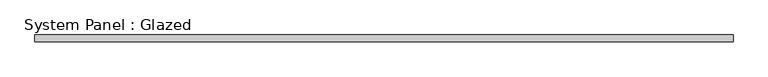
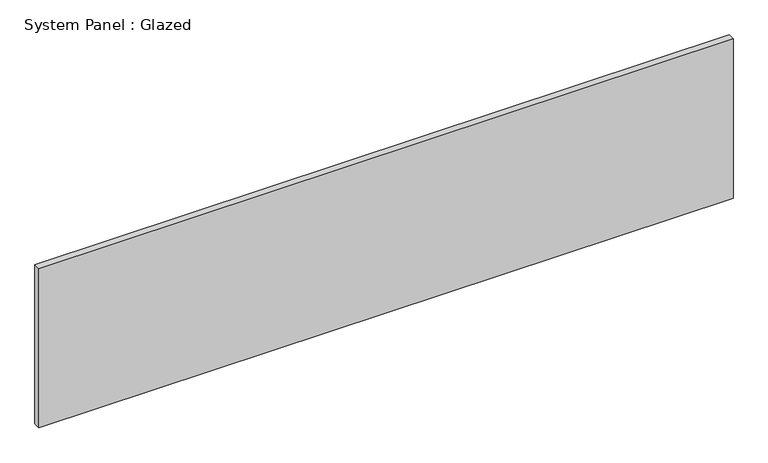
"""IFC4 building model written with IfcOpenShell, lengths in millimetres: plate geometry, System Panel : Glazed."""

from ifc_helpers import new_model, si_unit, origin, origin_with_axes, place, context, project, spatial, polyline, outline, extrude, source, transform, mapped, element, save


def system_panel_glazed_9694b00d(model_context):
    return source(origin(), model_context, "Body", "SweptSolid", [
        extrude(outline(polyline([(1237.5, -49.5), (-1237.5, -49.5), (-1237.5, -24.5), (1237.5, -24.5), (1237.5, -49.5)])), origin_with_axes(), (0.0, 0.0, 1.0), 600.0),
    ])


if __name__ == "__main__":
    model = new_model("IFC4")
    model_context = context("Model", 3, world=origin())
    ifc_project = project(units=[si_unit("LENGTHUNIT", "METRE", prefix="MILLI")], contexts=[model_context])
    site = spatial("IfcSite", under=ifc_project)
    building = spatial("IfcBuilding", under=site)
    placement = place(None, origin())
    system_panel_glazed_shape = system_panel_glazed_9694b00d(model_context)
    element("IfcPlate", 1, ObjectType="System Panel : Glazed", at=placement, inside=building, context=model_context, shape_type="MappedRepresentation", body=[
        mapped(system_panel_glazed_shape, transform((0.0, 0.0, 0.0), x_axis=(1.0, 0.0, 0.0), y_axis=(0.0, 1.0, 0.0), z_axis=(0.0, 0.0, 1.0))),
    ])
    save(model, "model.ifc")
